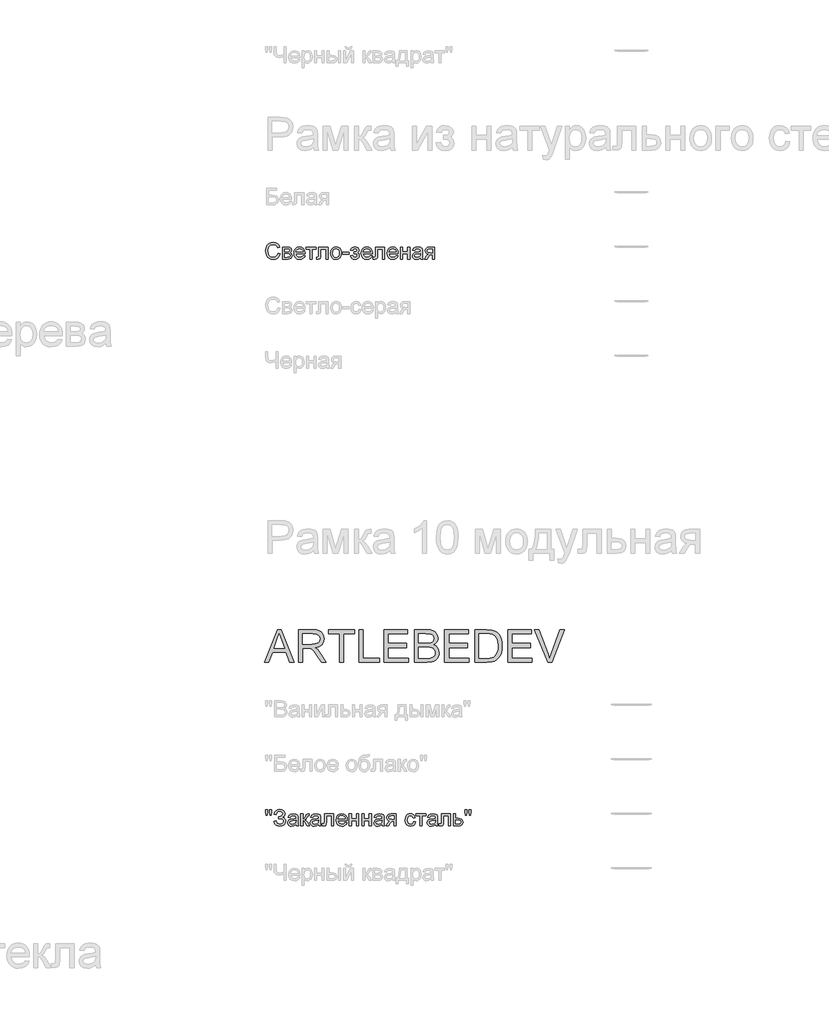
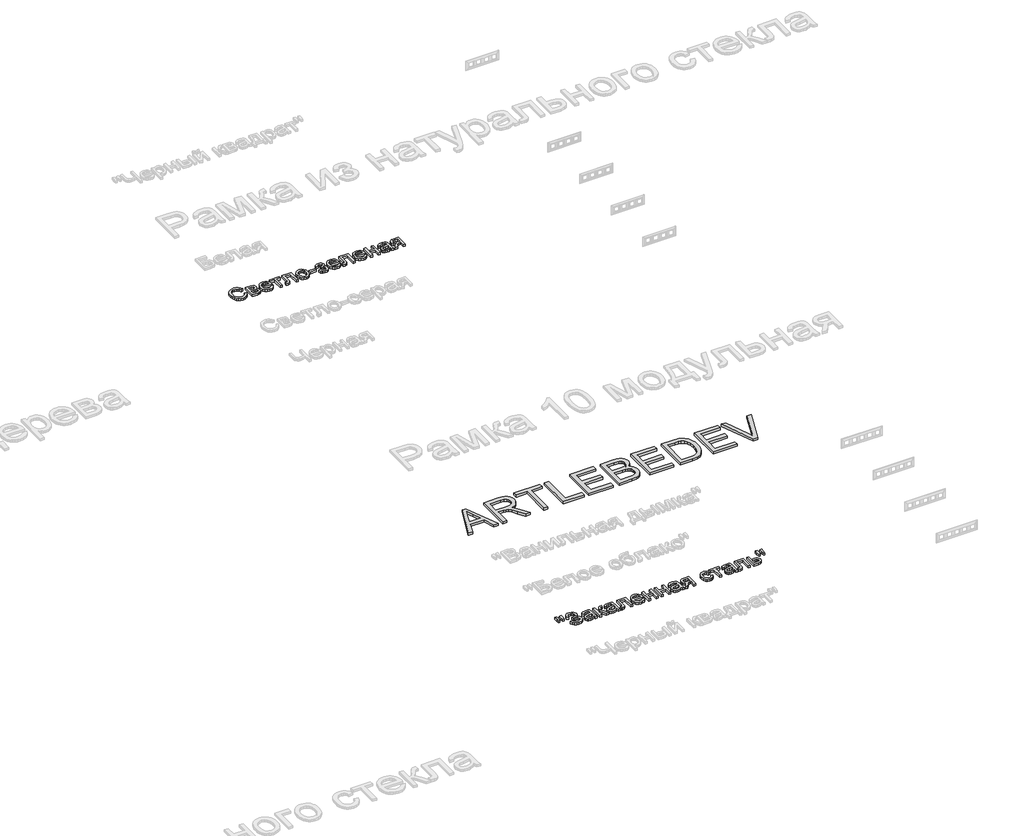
# One storey, part 125 of 168: 3 proxies.
"""IFC4 building model written with IfcOpenShell, lengths in millimetres."""

import ifcopenshell
import ifcopenshell.guid

model = None  # the IFC model being written
_history = None  # IfcOwnerHistory: only IFC2X3 demands one
_inside = {}  # id of a spatial element -> (the spatial element, [elements in it])
_under = {}  # id of a project, library or spatial element -> (it, [spatial elements below it])
_declared = {}  # id of a project -> (the project, [libraries it declares])
_typed = {}  # id of a type object -> (the type object, [elements of that type])
_made_of = {}  # id of a material, layer set ... -> (it, [elements and type objects made of it])


def new_model(schema):
    """Start an empty IFC model of exactly this schema.

    Asked for "IFC4X3", IfcOpenShell would pick the latest addendum, in which some entities
    have other attributes; the version numbers below select the first issue.
    IFC2X3 requires an IfcOwnerHistory on every rooted entity: one is made here for all.
    """
    global model, _history
    if schema == "IFC4X3":
        model = ifcopenshell.file(schema_version=(4, 3, 0, 0))
    else:
        model = ifcopenshell.file(schema=schema)
    _inside.clear()
    _under.clear()
    _declared.clear()
    _typed.clear()
    _made_of.clear()
    _history = None
    if model.schema == "IFC2X3":
        org = make("IfcOrganization", Name="unknown")
        user = make(
            "IfcPersonAndOrganization",
            ThePerson=make("IfcPerson", FamilyName="unknown"),
            TheOrganization=org,
        )
        app = make(
            "IfcApplication",
            ApplicationDeveloper=org,
            Version="unknown",
            ApplicationFullName="unknown",
            ApplicationIdentifier="unknown",
        )
        _history = make(
            "IfcOwnerHistory",
            OwningUser=user,
            OwningApplication=app,
            ChangeAction="ADDED",
            CreationDate=0,
        )
    return model


def make(cls, **values):
    """One entity of the class cls with the attributes given. An attribute that is None is left unset."""
    return model.create_entity(
        cls, **{name: value for name, value in values.items() if value is not None}
    )


def rooted(cls, **values):
    """An entity with a GlobalId (a new one), such as an element, a storey or a relation."""
    return make(cls, GlobalId=ifcopenshell.guid.new(), OwnerHistory=_history, **values)


def si_unit(unit_type, name, prefix=None):
    """IfcSIUnit, for example si_unit("LENGTHUNIT", "METRE", prefix="MILLI")."""
    return make("IfcSIUnit", UnitType=unit_type, Prefix=prefix, Name=name)


def assignment(units):
    """IfcUnitAssignment: the units of a project."""
    return None if units is None else make("IfcUnitAssignment", Units=units)


def point(xyz):
    """IfcCartesianPoint."""
    return None if xyz is None else make("IfcCartesianPoint", Coordinates=xyz)


def direction(xyz):
    """IfcDirection."""
    return None if xyz is None else make("IfcDirection", DirectionRatios=xyz)


def frame(location, z_axis=None, x_axis=None):
    """IfcAxis2Placement3D, a coordinate frame: its origin and axes. An axis left out is left unset."""
    return make(
        "IfcAxis2Placement3D",
        Location=point(location),
        Axis=direction(z_axis),
        RefDirection=direction(x_axis),
    )


def origin():
    """The frame at (0, 0, 0) with its axes left unset."""
    return frame((0.0, 0.0, 0.0))


def origin_with_axes():
    """The frame at (0, 0, 0) with the z axis (0, 0, 1) and the x axis (1, 0, 0) written out."""
    return frame((0.0, 0.0, 0.0), z_axis=(0.0, 0.0, 1.0), x_axis=(1.0, 0.0, 0.0))


def place(relative_to, where):
    """IfcLocalPlacement: puts the frame where relative to a parent placement (None: the world)."""
    return make(
        "IfcLocalPlacement", PlacementRelTo=relative_to, RelativePlacement=where
    )


def context(
    kind, dimensions, precision=None, world=None, true_north=None, identifier=None
):
    """IfcGeometricRepresentationContext, for example the 3D "Model" context."""
    return make(
        "IfcGeometricRepresentationContext",
        ContextIdentifier=identifier,
        ContextType=kind,
        CoordinateSpaceDimension=dimensions,
        Precision=precision,
        WorldCoordinateSystem=world,
        TrueNorth=true_north,
    )


def project(units=None, contexts=None):
    """IfcProject with its units and contexts."""
    return rooted(
        "IfcProject",
        Name="project",
        RepresentationContexts=contexts,
        UnitsInContext=assignment(units),
    )


def spatial(cls, under=None, at=None, **own):
    """A site, building, storey or space (cls), placed at a placement, below another one or the project."""
    s = rooted(cls, ObjectPlacement=at, **own)
    if under is not None:
        _under.setdefault(under.id(), (under, []))[1].append(s)
    return s


def polyline(points):
    """IfcPolyline through the points."""
    return make("IfcPolyline", Points=[point(p) for p in points])


def outline(outer, holes=None, kind="AREA"):
    """IfcArbitraryClosedProfileDef: a profile drawn as a closed curve; with holes, ...WithVoids."""
    if holes is None:
        return make("IfcArbitraryClosedProfileDef", ProfileType=kind, OuterCurve=outer)
    return make(
        "IfcArbitraryProfileDefWithVoids",
        ProfileType=kind,
        OuterCurve=outer,
        InnerCurves=holes,
    )


def extrude(swept, where, along, depth):
    """IfcExtrudedAreaSolid: the profile swept, set in the frame where, extruded along a direction by depth."""
    return make(
        "IfcExtrudedAreaSolid",
        SweptArea=swept,
        Position=where,
        ExtrudedDirection=direction(along),
        Depth=depth,
    )


def shape(context_of_items, identifier, shape_type, items):
    """IfcShapeRepresentation: the items that make up one representation, for example the "Body"."""
    return make(
        "IfcShapeRepresentation",
        ContextOfItems=context_of_items,
        RepresentationIdentifier=identifier,
        RepresentationType=shape_type,
        Items=items,
    )


def made_of(thing, what):
    """Note that an element or type object is made of a material, layer set ...; save() writes the relation."""
    if what is not None:
        _made_of.setdefault(what.id(), (what, []))[1].append(thing)
    return thing


def element(
    cls,
    number,
    at=None,
    inside=None,
    cuts=None,
    type_object=None,
    material=None,
    context=None,
    identifier="Body",
    shape_type=None,
    held_by="IfcProductDefinitionShape",
    body=None,
    shapes=None,
    **own,
):
    """One element of the class cls, such as IfcWall. Its Tag is "e" and its number.

    at: its placement. inside: the storey or other place that contains it. cuts: it is an
    opening in that element (IfcRelVoidsElement). A single representation is given by context,
    identifier, shape_type and body (its items); several are given by shapes. held_by: the class
    of the entity that holds the representations. save() writes the other relations.
    """
    e = rooted(cls, Tag="e%d" % number, ObjectPlacement=at, **own)
    if body is not None:
        shapes = [shape(context, identifier, shape_type, body)]
    if shapes is not None:
        e.Representation = make(held_by, Representations=shapes)
    if inside is not None:
        _inside.setdefault(inside.id(), (inside, []))[1].append(e)
    if cuts is not None:
        rooted(
            "IfcRelVoidsElement", RelatingBuildingElement=cuts, RelatedOpeningElement=e
        )
    if type_object is not None:
        _typed.setdefault(type_object.id(), (type_object, []))[1].append(e)
    return made_of(e, material)


def aggregate(whole, parts):
    """IfcRelAggregates: a whole, such as a stair, and the parts it consists of."""
    return rooted("IfcRelAggregates", RelatingObject=whole, RelatedObjects=parts)


def save(model, path):
    """Write the relations noted so far, then the file.

    IfcRelAggregates (storeys below a building ...), IfcRelContainedInSpatialStructure (elements
    in a storey), IfcRelDefinesByType, IfcRelAssociatesMaterial and IfcRelDeclares: one each for
    every whole, place, type object, material and project.
    """
    for whole, parts in _under.values():
        aggregate(whole, parts)
    for where, things in _inside.values():
        rooted(
            "IfcRelContainedInSpatialStructure",
            RelatedElements=things,
            RelatingStructure=where,
        )
    for kind, things in _typed.values():
        rooted("IfcRelDefinesByType", RelatedObjects=things, RelatingType=kind)
    for what, things in _made_of.values():
        rooted("IfcRelAssociatesMaterial", RelatedObjects=things, RelatingMaterial=what)
    for by, libraries in _declared.values():
        rooted("IfcRelDeclares", RelatingContext=by, RelatedDefinitions=libraries)
    model.write(path)


model = new_model("IFC4")

# Units and contexts
model_context = context("Model", 3, world=origin())
ifc_project = project(units=[si_unit("LENGTHUNIT", "METRE", prefix="MILLI")], contexts=[model_context])

# Site, building, storey
site = spatial("IfcSite", under=ifc_project)
building = spatial("IfcBuilding", under=site)
storey = spatial("IfcBuildingStorey", under=building, Name="Этаж 01", Elevation=0.0)

# Proxies
placement = place(None, origin())
element("IfcBuildingElementProxy", 1, Name="300 мм Arial 2", ObjectType="300 мм Arial 2", at=placement, inside=storey, context=model_context, shape_type="SweptSolid", body=[
    extrude(outline(polyline([(55063.9985593, -13548.4056816), (55184.2959717, -13247.0367511), (55216.3752817, -13247.0367511), (55336.6726941, -13548.4056816), (55296.8678623, -13548.4056816), (55262.3605311, -13454.2278908), (55138.2371459, -13454.2278908), (55103.8033912, -13548.4056816), (55063.9985593, -13548.4056816)]), holes=[polyline([(55152.069509, -13416.5567745), (55248.6017445, -13416.5567745), (55221.4520533, -13342.4653407), (55200.3356267, -13284.7078674), (55181.573645, -13335.9906176), (55152.069509, -13416.5567745)])]), origin_with_axes(), (0.0, 0.0, 1.0), 20.0),
    extrude(outline(polyline([(55376.9189844, -13548.4056816), (55376.9189844, -13247.0367511), (55506.7813287, -13247.0367511), (55541.684133, -13249.0692991), (55567.0771877, -13255.1669432), (55585.6368344, -13266.4241323), (55600.0394145, -13283.9353152), (55609.2824496, -13305.64955), (55612.3634613, -13329.5158944), (55607.2590986, -13359.2039714), (55591.9460106, -13383.8152769), (55580.3462314, -13393.8446598), (55565.9643447, -13401.8598888), (55528.8542484, -13411.847885), (55550.2649805, -13427.9611163), (55580.7991861, -13466.7358786), (55631.0518667, -13548.4056816), (55587.2739093, -13548.4056816), (55548.0576886, -13485.9393188), (55519.7307749, -13444.5893825), (55499.828359, -13425.0548486), (55481.9125058, -13417.8811497), (55460.0603153, -13416.5567745), (55414.5901007, -13416.5567745), (55414.5901007, -13548.4056816), (55376.9189844, -13548.4056816)]), holes=[polyline([(55414.5901007, -13378.8856582), (55498.908654, -13378.8856582), (55523.1244863, -13377.552086), (55541.9140593, -13373.5513693), (55556.059122, -13366.6167937), (55566.3414237, -13356.4816447), (55572.6046147, -13344.2219772), (55574.692345, -13330.913846), (55570.7100224, -13312.5381404), (55558.7630546, -13297.7308901), (55538.2076482, -13287.9636231), (55508.4000095, -13284.7078674), (55414.5901007, -13284.7078674), (55414.5901007, -13378.8856582)])]), origin_with_axes(), (0.0, 0.0, 1.0), 20.0),
    extrude(outline(polyline([(55753.6301475, -13548.4056816), (55753.6301475, -13284.7078674), (55654.7434672, -13284.7078674), (55654.7434672, -13247.0367511), (55890.1879441, -13247.0367511), (55890.1879441, -13284.7078674), (55791.3012638, -13284.7078674), (55791.3012638, -13548.4056816), (55753.6301475, -13548.4056816)])), origin_with_axes(), (0.0, 0.0, 1.0), 20.0),
    extrude(outline(polyline([(55932.5679499, -13548.4056816), (55932.5679499, -13247.0367511), (55970.2390662, -13247.0367511), (55970.2390662, -13510.7345653), (56120.9235315, -13510.7345653), (56120.9235315, -13548.4056816), (55932.5679499, -13548.4056816)])), origin_with_axes(), (0.0, 0.0, 1.0), 20.0),
    extrude(outline(polyline([(56163.3035373, -13548.4056816), (56163.3035373, -13247.0367511), (56379.9124561, -13247.0367511), (56379.9124561, -13284.7078674), (56200.9746536, -13284.7078674), (56200.9746536, -13374.1767687), (56370.494677, -13374.1767687), (56370.494677, -13411.847885), (56200.9746536, -13411.847885), (56200.9746536, -13510.7345653), (56384.6213456, -13510.7345653), (56384.6213456, -13548.4056816), (56163.3035373, -13548.4056816)])), origin_with_axes(), (0.0, 0.0, 1.0), 20.0),
    extrude(outline(polyline([(56441.1280201, -13548.4056816), (56441.1280201, -13247.0367511), (56556.1279318, -13247.0367511), (56587.7565863, -13249.2532401), (56612.4506652, -13255.9027072), (56631.3781939, -13267.1506992), (56645.7071976, -13283.162763), (56654.7295035, -13301.9983212), (56657.7369388, -13321.7167961), (56655.2077501, -13339.8625756), (56647.620184, -13356.9231031), (56634.9190581, -13371.849915), (56617.0491902, -13383.5945477), (56638.3955429, -13394.7413722), (56654.1684835, -13411.7007322), (56663.9081593, -13433.3505876), (56667.1547179, -13458.5688983), (56664.9382289, -13479.5841573), (56658.2887618, -13499.072706), (56648.365145, -13515.6457899), (56636.3262067, -13527.9146544), (56621.5833357, -13536.7990046), (56603.5479209, -13543.2185454), (56555.245015, -13548.4056816), (56441.1280201, -13548.4056816)]), holes=[polyline([(56478.7991364, -13369.4678791), (56547.5930695, -13369.4678791), (56587.7657833, -13366.2305176), (56601.8280726, -13360.6479083), (56611.9356304, -13352.2877899), (56618.0332745, -13341.2789212), (56620.0658225, -13327.7500609), (56618.1712302, -13314.6166736), (56612.4874534, -13303.1755436), (56603.2720094, -13294.2452082), (56590.7824157, -13288.6442048), (56542.3691451, -13284.7078674), (56478.7991364, -13284.7078674), (56478.7991364, -13369.4678791)]), polyline([(56478.7991364, -13510.7345653), (56556.0543554, -13510.7345653), (56584.013387, -13509.2630373), (56607.6681993, -13501.0592688), (56623.3399723, -13484.320638), (56627.9476943, -13472.4932319), (56629.4836016, -13458.9367803), (56627.6809798, -13443.1914309), (56622.2731145, -13429.6533735), (56612.8277443, -13419.0675691), (56598.9126078, -13412.1789788), (56579.2033299, -13408.3989913), (56552.3755354, -13407.1389954), (56478.7991364, -13407.1389954), (56478.7991364, -13510.7345653)])]), origin_with_axes(), (0.0, 0.0, 1.0), 20.0),
    extrude(outline(polyline([(56718.9525028, -13548.4056816), (56718.9525028, -13247.0367511), (56935.5614216, -13247.0367511), (56935.5614216, -13284.7078674), (56756.6236191, -13284.7078674), (56756.6236191, -13374.1767687), (56926.1436425, -13374.1767687), (56926.1436425, -13411.847885), (56756.6236191, -13411.847885), (56756.6236191, -13510.7345653), (56940.2703111, -13510.7345653), (56940.2703111, -13548.4056816), (56718.9525028, -13548.4056816)])), origin_with_axes(), (0.0, 0.0, 1.0), 20.0),
    extrude(outline(polyline([(56996.7769856, -13548.4056816), (56996.7769856, -13247.0367511), (57100.7404374, -13247.0367511), (57154.5247851, -13251.3777587), (57178.5474794, -13259.7470741), (57198.8177773, -13272.9356436), (57219.6582924, -13295.8914801), (57234.5023309, -13324.4391229), (57243.386681, -13358.0267491), (57246.3481311, -13396.1025356), (57244.3431742, -13428.44856), (57238.3283036, -13456.9134294), (57229.1680419, -13481.1476558), (57217.7269119, -13500.8017514), (57204.5567365, -13516.3171745), (57190.2093386, -13528.1353836), (57173.7374223, -13536.9001722), (57154.1936913, -13543.2553336), (57105.7436325, -13548.4056816), (56996.7769856, -13548.4056816)]), holes=[polyline([(57034.4481019, -13510.7345653), (57101.1083194, -13510.7345653), (57128.6810749, -13509.3734019), (57149.5951664, -13505.2899117), (57165.377304, -13498.7232181), (57177.554198, -13489.9124443), (57190.6416, -13473.6060749), (57200.4732463, -13452.4988454), (57206.6260727, -13426.4987854), (57208.6770148, -13395.5139244), (57204.657904, -13354.4582937), (57192.6005716, -13324.1448173), (57174.785886, -13303.3226964), (57153.4947155, -13290.7411321), (57131.826466, -13286.2161836), (57100.0782498, -13284.7078674), (57034.4481019, -13284.7078674), (57034.4481019, -13510.7345653)])]), origin_with_axes(), (0.0, 0.0, 1.0), 20.0),
    extrude(outline(polyline([(57298.145916, -13548.4056816), (57298.145916, -13247.0367511), (57514.7548348, -13247.0367511), (57514.7548348, -13284.7078674), (57335.8170323, -13284.7078674), (57335.8170323, -13374.1767687), (57505.3370557, -13374.1767687), (57505.3370557, -13411.847885), (57335.8170323, -13411.847885), (57335.8170323, -13510.7345653), (57519.4637243, -13510.7345653), (57519.4637243, -13548.4056816), (57298.145916, -13548.4056816)])), origin_with_axes(), (0.0, 0.0, 1.0), 20.0),
    extrude(outline(polyline([(57664.9978416, -13548.4056816), (57545.0683112, -13247.0367511), (57585.3881779, -13247.0367511), (57665.6600292, -13464.1607047), (57681.9204134, -13513.08901), (57697.9600684, -13464.1607047), (57778.4526489, -13247.0367511), (57818.7725156, -13247.0367511), (57703.9197567, -13548.4056816), (57664.9978416, -13548.4056816)])), origin_with_axes(), (0.0, 0.0, 1.0), 20.0),
])
element("IfcBuildingElementProxy", 2, Name="150", ObjectType="150", at=placement, inside=storey, context=model_context, shape_type="SweptSolid", body=[
    extrude(outline(polyline([(55188.5634029, -9794.8420631), (55207.398961, -9799.6981054), (55198.7077489, -9821.6468649), (55185.0685239, -9837.6819214), (55167.1526708, -9847.4905751), (55145.631574, -9850.7601263), (55123.7839821, -9848.2861199), (55106.4337475, -9840.8641007), (55093.1348133, -9828.751586), (55083.4411228, -9812.2060932), (55077.5228212, -9792.7543327), (55075.550054, -9771.9230148), (55077.7803386, -9749.9512626), (55084.4711923, -9730.9777487), (55095.2731274, -9715.6048798), (55109.8366559, -9704.4350628), (55127.1087156, -9697.6338444), (55146.0362442, -9695.3667716), (55166.6882197, -9698.3006305), (55183.7625428, -9707.1022072), (55196.7257847, -9721.2288758), (55205.0445163, -9740.1380104), (55186.2089581, -9744.6261707), (55179.6790527, -9730.8903767), (55170.7579143, -9721.4679991), (55159.3351784, -9716.0187471), (55145.3004803, -9714.2023297), (55129.1228695, -9716.2164837), (55115.8331324, -9722.2589454), (55105.7485672, -9731.6951186), (55099.1864722, -9743.8904067), (55094.3856121, -9771.8862266), (55095.8065563, -9789.2870449), (55100.0693889, -9804.3334185), (55107.3350583, -9816.4505318), (55117.7645129, -9825.063569), (55130.2679022, -9830.2093184), (55143.7553759, -9831.9245682), (55159.4777326, -9829.5885175), (55172.5789302, -9822.5803655), (55182.4703573, -9810.9736886), (55188.5634029, -9794.8420631)])), origin_with_axes(), (0.0, 0.0, 1.0), 20.0),
    extrude(outline(polyline([(55230.9434087, -9737.7467774), (55272.4404978, -9737.7467774), (55295.1939992, -9740.2667691), (55307.9962926, -9749.5006072), (55313.3489756, -9765.5954445), (55310.1116141, -9778.6736494), (55300.3627412, -9787.999458), (55313.0178819, -9798.2081833), (55318.0578652, -9815.9584896), (55314.8664889, -9830.3150845), (55307.2789227, -9840.4226423), (55295.2675756, -9846.4099217), (55278.8048563, -9848.4056816), (55230.9434087, -9848.4056816), (55230.9434087, -9737.7467774)]), holes=[polyline([(55249.7789669, -9780.1267833), (55268.3937958, -9780.1267833), (55283.7528691, -9779.1702901), (55291.2208736, -9775.3443173), (55294.5134175, -9768.4281358), (55293.0694807, -9762.8087383), (55288.7376702, -9759.1942977), (55268.982407, -9756.5823356), (55249.7789669, -9756.5823356), (55249.7789669, -9780.1267833)]), polyline([(55249.7789669, -9829.5701234), (55272.8819562, -9829.5701234), (55293.3729833, -9826.167215), (55297.6128233, -9821.5273033), (55299.222307, -9814.4133852), (55296.0033396, -9805.345094), (55287.6156301, -9800.0659874), (55271.0425462, -9798.9623414), (55249.7789669, -9798.9623414), (55249.7789669, -9829.5701234)])]), origin_with_axes(), (0.0, 0.0, 1.0), 20.0),
    extrude(outline(polyline([(55419.0782611, -9815.4434548), (55437.5459372, -9817.7978996), (55430.8918716, -9831.713036), (55420.2738775, -9842.1148995), (55405.9310783, -9848.5988196), (55388.1025971, -9850.7601263), (55366.0020862, -9847.0307226), (55348.996741, -9835.8425114), (55338.1534192, -9817.9220597), (55334.5389786, -9793.9959345), (55338.1902074, -9769.2650674), (55349.1438938, -9750.7698), (55365.9193128, -9739.2366995), (55387.0357393, -9735.3923327), (55407.4945767, -9739.2275025), (55423.8423329, -9750.7330118), (55434.5614945, -9769.191491), (55438.1345484, -9793.8855699), (55438.0241838, -9798.9623414), (55353.3745367, -9798.9623414), (55356.6348909, -9813.0614189), (55364.2086615, -9823.4264941), (55375.1393553, -9829.8000497), (55388.4704791, -9831.9245682), (55406.9381552, -9827.9882308), (55419.0782611, -9815.4434548)]), holes=[polyline([(55353.3745367, -9780.1267833), (55419.2989903, -9780.1267833), (55416.7514074, -9770.1755753), (55411.7574094, -9763.0570587), (55400.7761318, -9756.4351828), (55386.9621629, -9754.2278908), (55374.2656355, -9755.9891259), (55363.7672031, -9761.272831), (55356.469344, -9769.5087892), (55353.3745367, -9780.1267833)])]), origin_with_axes(), (0.0, 0.0, 1.0), 20.0),
    extrude(outline(polyline([(55447.5523275, -9737.7467774), (55537.0212287, -9737.7467774), (55537.0212287, -9756.5823356), (55501.7045572, -9756.5823356), (55501.7045572, -9848.4056816), (55482.868999, -9848.4056816), (55482.868999, -9756.5823356), (55447.5523275, -9756.5823356), (55447.5523275, -9737.7467774)])), origin_with_axes(), (0.0, 0.0, 1.0), 20.0),
    extrude(outline(polyline([(55562.9201212, -9737.7467774), (55647.6801329, -9737.7467774), (55647.6801329, -9848.295317), (55628.8445747, -9848.295317), (55628.8445747, -9756.5823356), (55581.7556793, -9756.5823356), (55581.7556793, -9809.3734019), (55580.4864864, -9833.72719), (55573.5151226, -9844.0094917), (55557.0340093, -9848.4056816), (55541.7301183, -9847.4491884), (55541.7301183, -9829.5701234), (55550.1546159, -9829.5701234), (55558.6710841, -9828.4112951), (55562.0739926, -9824.7324752), (55562.9201212, -9808.3065441), (55562.9201212, -9737.7467774)])), origin_with_axes(), (0.0, 0.0, 1.0), 20.0),
    extrude(outline(polyline([(55671.2245806, -9793.0762295), (55675.2988737, -9766.3955878), (55687.5217529, -9747.6428031), (55702.6233088, -9738.4549503), (55720.7047089, -9735.3923327), (55740.4921617, -9739.1217364), (55756.2972919, -9750.3099476), (55766.6577686, -9768.0740494), (55770.1112609, -9791.5311251), (55768.5845506, -9810.5598213), (55764.0044197, -9825.0451749), (55756.5042256, -9835.8930952), (55746.2173253, -9844.0094917), (55733.9990445, -9849.0724677), (55720.7047089, -9850.7601263), (55700.6781328, -9847.0445182), (55684.8913967, -9835.8976937), (55674.6412846, -9817.7611114), (55671.2245806, -9793.0762295)]), holes=[polyline([(55690.0601387, -9793.0394413), (55692.2398395, -9810.0861732), (55698.778942, -9822.2308776), (55708.6197854, -9829.5011455), (55720.7047089, -9831.9245682), (55732.7344502, -9829.48735), (55742.5568994, -9822.1756953), (55749.0960019, -9809.8700426), (55751.2757027, -9792.4508301), (55749.0822063, -9775.9007388), (55742.5017171, -9763.9215814), (55732.6654723, -9756.6513134), (55720.7047089, -9754.2278908), (55708.6197854, -9756.6421164), (55698.778942, -9763.8847932), (55692.2398395, -9776.0019064), (55690.0601387, -9793.0394413)])]), origin_with_axes(), (0.0, 0.0, 1.0), 20.0),
    extrude(outline(polyline([(55781.8834847, -9803.671231), (55781.8834847, -9784.8356728), (55840.7446039, -9784.8356728), (55840.7446039, -9803.671231), (55781.8834847, -9803.671231)])), origin_with_axes(), (0.0, 0.0, 1.0), 20.0),
    extrude(outline(polyline([(55887.8334993, -9798.9623414), (55887.8334993, -9780.1267833), (55902.6959319, -9779.3910193), (55910.2007246, -9775.473076), (55913.7323918, -9767.2877016), (55909.0051081, -9757.7779521), (55896.80982, -9754.2278908), (55884.2098617, -9757.759558), (55876.0612755, -9768.3545594), (55854.8712725, -9766.0001146), (55860.49067, -9752.60921), (55869.0347294, -9743.0442782), (55880.5034506, -9737.305319), (55894.8968336, -9735.3923327), (55910.642183, -9737.7237848), (55922.5615597, -9744.7181412), (55930.0663524, -9754.9498592), (55932.5679499, -9766.993396), (55929.0086916, -9778.6920435), (55918.3309167, -9787.7419406), (55930.7837223, -9799.4773762), (55934.9223947, -9816.3631598), (55932.296637, -9830.2277125), (55924.4193637, -9841.2135886), (55911.8240039, -9848.3734919), (55895.0439864, -9850.7601263), (55878.6318509, -9848.5528344), (55866.0732793, -9841.9309585), (55857.3682716, -9830.8944986), (55852.5168278, -9815.4434548), (55873.7068307, -9813.08901), (55882.2049048, -9826.9949494), (55896.8466082, -9831.9245682), (55910.6053948, -9827.1972845), (55916.0868365, -9815.112361), (55912.6839281, -9805.2163353), (55905.4366528, -9799.9188346), (55891.5123193, -9798.8519768), (55887.8334993, -9798.9623414)])), origin_with_axes(), (0.0, 0.0, 1.0), 20.0),
    extrude(outline(polyline([(56035.9427906, -9815.4434548), (56054.4104667, -9817.7978996), (56047.7564011, -9831.713036), (56037.1384071, -9842.1148995), (56022.7956078, -9848.5988196), (56004.9671266, -9850.7601263), (55982.8666157, -9847.0307226), (55965.8612705, -9835.8425114), (55955.0179487, -9817.9220597), (55951.4035081, -9793.9959345), (55955.0547369, -9769.2650674), (55966.0084233, -9750.7698), (55982.7838423, -9739.2366995), (56003.9002688, -9735.3923327), (56024.3591063, -9739.2275025), (56040.7068624, -9750.7330118), (56051.426024, -9769.191491), (56054.9990779, -9793.8855699), (56054.8887133, -9798.9623414), (55970.2390662, -9798.9623414), (55973.4994204, -9813.0614189), (55981.073191, -9823.4264941), (55992.0038848, -9829.8000497), (56005.3350086, -9831.9245682), (56023.8026847, -9827.9882308), (56035.9427906, -9815.4434548)]), holes=[polyline([(55970.2390662, -9780.1267833), (56036.1635198, -9780.1267833), (56033.615937, -9770.1755753), (56028.6219389, -9763.0570587), (56017.6406613, -9756.4351828), (56003.8266924, -9754.2278908), (55991.130165, -9755.9891259), (55980.6317326, -9761.272831), (55973.3338735, -9769.5087892), (55970.2390662, -9780.1267833)])]), origin_with_axes(), (0.0, 0.0, 1.0), 20.0),
    extrude(outline(polyline([(56083.2524152, -9737.7467774), (56168.0124268, -9737.7467774), (56168.0124268, -9848.295317), (56149.1768687, -9848.295317), (56149.1768687, -9756.5823356), (56102.0879733, -9756.5823356), (56102.0879733, -9809.3734019), (56100.8187804, -9833.72719), (56093.8474166, -9844.0094917), (56077.3663032, -9848.4056816), (56062.0624122, -9847.4491884), (56062.0624122, -9829.5701234), (56070.4869099, -9829.5701234), (56079.0033781, -9828.4112951), (56082.4062866, -9824.7324752), (56083.2524152, -9808.3065441), (56083.2524152, -9737.7467774)])), origin_with_axes(), (0.0, 0.0, 1.0), 20.0),
    extrude(outline(polyline([(56273.7417123, -9815.4434548), (56292.2093884, -9817.7978996), (56285.5553228, -9831.713036), (56274.9373287, -9842.1148995), (56260.5945295, -9848.5988196), (56242.7660483, -9850.7601263), (56220.6655374, -9847.0307226), (56203.6601922, -9835.8425114), (56192.8168704, -9817.9220597), (56189.2024298, -9793.9959345), (56192.8536586, -9769.2650674), (56203.807345, -9750.7698), (56220.582764, -9739.2366995), (56241.6991905, -9735.3923327), (56262.1580279, -9739.2275025), (56278.5057841, -9750.7330118), (56289.2249457, -9769.191491), (56292.7979996, -9793.8855699), (56292.687635, -9798.9623414), (56208.0379879, -9798.9623414), (56211.2983421, -9813.0614189), (56218.8721127, -9823.4264941), (56229.8028065, -9829.8000497), (56243.1339303, -9831.9245682), (56261.6016064, -9827.9882308), (56273.7417123, -9815.4434548)]), holes=[polyline([(56208.0379879, -9780.1267833), (56273.9624415, -9780.1267833), (56271.4148586, -9770.1755753), (56266.4208606, -9763.0570587), (56255.439583, -9756.4351828), (56241.6256141, -9754.2278908), (56228.9290867, -9755.9891259), (56218.4306543, -9761.272831), (56211.1327952, -9769.5087892), (56208.0379879, -9780.1267833)])]), origin_with_axes(), (0.0, 0.0, 1.0), 20.0),
    extrude(outline(polyline([(56311.6335578, -9737.7467774), (56330.4691159, -9737.7467774), (56330.4691159, -9780.1267833), (56379.9124561, -9780.1267833), (56379.9124561, -9737.7467774), (56398.7480142, -9737.7467774), (56398.7480142, -9848.4056816), (56379.9124561, -9848.4056816), (56379.9124561, -9798.9623414), (56330.4691159, -9798.9623414), (56330.4691159, -9848.4056816), (56311.6335578, -9848.4056816), (56311.6335578, -9737.7467774)])), origin_with_axes(), (0.0, 0.0, 1.0), 20.0),
    extrude(outline(polyline([(56497.6346945, -9834.279013), (56479.3693535, -9847.0445182), (56459.191026, -9850.7601263), (56443.4502752, -9848.5252432), (56431.8389997, -9841.8205939), (56424.6790964, -9831.6394596), (56422.2924619, -9818.975122), (56425.8977055, -9804.0759012), (56435.3706668, -9793.2601705), (56448.5592364, -9787.079753), (56464.8564088, -9784.2470616), (56497.5243299, -9777.7723385), (56497.6346945, -9773.5784838), (56496.3379105, -9765.1723802), (56492.4475584, -9759.6725443), (56483.7471492, -9755.5890542), (56471.6254375, -9754.2278908), (56452.5691501, -9757.8515285), (56443.4824648, -9770.7090042), (56424.6469067, -9768.3545594), (56432.7954929, -9749.9604597), (56449.2030299, -9739.1815172), (56474.0534586, -9735.3923327), (56496.8805364, -9738.7400588), (56509.7748004, -9747.1461624), (56515.5505477, -9759.9300617), (56516.4702527, -9776.4111751), (56516.4702527, -9799.8452582), (56517.4267459, -9832.5683617), (56521.1791422, -9848.4056816), (56502.3435841, -9848.4056816), (56497.6346945, -9834.279013)]), holes=[polyline([(56497.6346945, -9796.6078966), (56467.2476417, -9802.383644), (56451.0424398, -9805.4370645), (56443.703194, -9810.4034715), (56441.1280201, -9817.6507468), (56446.7382205, -9827.841078), (56463.2009398, -9831.9245682), (56482.2572271, -9827.4180137), (56494.5444858, -9816.5103126), (56497.5243299, -9801.9421856), (56497.6346945, -9796.6078966)])]), origin_with_axes(), (0.0, 0.0, 1.0), 20.0),
    extrude(outline(polyline([(56627.1291568, -9737.7467774), (56627.1291568, -9848.4056816), (56608.2935987, -9848.4056816), (56608.2935987, -9806.0256757), (56598.029691, -9806.0256757), (56584.0501752, -9808.4169087), (56570.916788, -9824.4933519), (56555.9072026, -9848.4056816), (56534.1285884, -9848.4056816), (56553.037723, -9818.1657816), (56561.3886443, -9807.3132627), (56569.077378, -9802.4940086), (56556.2015082, -9798.5484742), (56547.1516111, -9791.0528785), (56541.798928, -9781.0832765), (56540.0147004, -9769.7157228), (56542.4519186, -9756.8214589), (56549.7635732, -9746.6127335), (56561.6921469, -9739.9632664), (56577.9801223, -9737.7467774), (56627.1291568, -9737.7467774)]), holes=[polyline([(56608.2935987, -9756.5823356), (56583.461564, -9756.5823356), (56570.6362779, -9757.672186), (56563.356813, -9760.9417372), (56558.8502585, -9771.1504626), (56560.510326, -9778.32876), (56565.4905285, -9783.3089625), (56589.0165821, -9787.1901176), (56608.2935987, -9787.1901176), (56608.2935987, -9756.5823356)])]), origin_with_axes(), (0.0, 0.0, 1.0), 20.0),
])
element("IfcBuildingElementProxy", 3, Name="150", ObjectType="150", at=placement, inside=storey, context=model_context, shape_type="SweptSolid", body=[
    extrude(outline(polyline([(55080.1485789, -14951.873446), (55075.550054, -14922.7739802), (55075.550054, -14897.7212163), (55094.3856121, -14897.7212163), (55094.3856121, -14922.7739802), (55090.2653338, -14951.873446), (55080.1485789, -14951.873446)])), origin_with_axes(), (0.0, 0.0, 1.0), 20.0),
    extrude(outline(polyline([(55117.7093306, -14951.873446), (55113.2211703, -14922.7739802), (55113.2211703, -14897.7212163), (55132.0567284, -14897.7212163), (55132.0567284, -14922.7739802), (55127.6421445, -14951.873446), (55117.7093306, -14951.873446)])), origin_with_axes(), (0.0, 0.0, 1.0), 20.0),
    extrude(outline(polyline([(55150.8922866, -15006.0256757), (55169.7278447, -15001.3167862), (55181.2977335, -15021.7158428), (55192.2284273, -15029.3723868), (55206.2217387, -15031.9245682), (55220.398991, -15030.0069833), (55231.2193202, -15024.2542286), (55238.0757209, -15015.7883442), (55240.3611878, -15005.7313701), (55237.8641888, -14995.1961495), (55230.3731916, -14987.0613589), (55218.5779752, -14981.8604272), (55203.1683181, -14980.1267833), (55193.2722924, -14980.1267833), (55193.2722924, -14961.2912251), (55214.591054, -14959.7645148), (55227.6324708, -14951.9654165), (55233.2978535, -14937.7099892), (55231.4124583, -14928.8394346), (55225.7562726, -14921.2104817), (55216.8811195, -14915.9543677), (55205.3388219, -14914.2023297), (55186.1169876, -14919.591801), (55175.117316, -14933.8840165), (55172.0822895, -14947.1645565), (55153.2467313, -14942.455667), (55159.0983543, -14921.8542752), (55169.7002536, -14907.1389954), (55185.0524291, -14898.3098275), (55205.1548809, -14895.3667716), (55224.5468605, -14898.4247907), (55239.4598769, -14907.5988479), (55248.965028, -14920.8655924), (55252.1334117, -14936.201673), (55247.2037929, -14954.8440931), (55232.4149367, -14968.7592296), (55242.8903765, -14973.5830823), (55251.5080123, -14981.7270699), (55257.2745625, -14992.4922168), (55259.196746, -15005.1795471), (55255.508729, -15023.0172254), (55244.444678, -15037.6819214), (55227.2921799, -15047.4905751), (55205.3388219, -15050.7601263), (55186.2365493, -15047.9642232), (55170.7947025, -15039.5765137), (55159.0132816, -15025.5969979), (55150.8922866, -15006.0256757)])), origin_with_axes(), (0.0, 0.0, 1.0), 20.0),
    extrude(outline(polyline([(55353.3745367, -15034.279013), (55335.1091957, -15047.0445182), (55314.9308682, -15050.7601263), (55299.1901174, -15048.5252432), (55287.5788419, -15041.8205939), (55280.4189386, -15031.6394596), (55278.0323041, -15018.975122), (55281.6375477, -15004.0759012), (55291.110509, -14993.2601705), (55304.2990786, -14987.079753), (55320.596251, -14984.2470616), (55353.2641721, -14977.7723385), (55353.3745367, -14973.5784838), (55352.0777527, -14965.1723802), (55348.1874006, -14959.6725443), (55339.4869914, -14955.5890542), (55327.3652797, -14954.2278908), (55308.3089923, -14957.8515285), (55299.222307, -14970.7090042), (55280.3867489, -14968.3545594), (55288.5353351, -14949.9604597), (55304.9428721, -14939.1815172), (55329.7933008, -14935.3923327), (55352.6203786, -14938.7400588), (55365.5146426, -14947.1461624), (55371.2903899, -14959.9300617), (55372.2100949, -14976.4111751), (55372.2100949, -14999.8452582), (55373.1665881, -15032.5683617), (55376.9189844, -15048.4056816), (55358.0834263, -15048.4056816), (55353.3745367, -15034.279013)]), holes=[polyline([(55353.3745367, -14996.6078966), (55322.9874839, -15002.383644), (55306.782282, -15005.4370645), (55299.4430362, -15010.4034715), (55296.8678623, -15017.6507468), (55302.4780627, -15027.841078), (55318.940782, -15031.9245682), (55337.9970693, -15027.4180137), (55350.284328, -15016.5103126), (55353.2641721, -15001.9421856), (55353.3745367, -14996.6078966)])]), origin_with_axes(), (0.0, 0.0, 1.0), 20.0),
    extrude(outline(polyline([(55398.1089873, -14937.7467774), (55416.9445455, -14937.7467774), (55416.9445455, -14984.8356728), (55429.5628979, -14981.4511584), (55439.900382, -14961.7326835), (55448.4904266, -14944.7181412), (55456.0687957, -14939.1815172), (55469.8459764, -14937.7467774), (55473.4512199, -14937.7467774), (55473.4512199, -14956.6927002), (55468.3744484, -14956.5823356), (55459.1773985, -14958.5688983), (55452.7026754, -14970.9665216), (55445.1059122, -14984.3758203), (55434.4557285, -14990.9425139), (55446.3383169, -14998.2725627), (55458.0001762, -15013.7144094), (55478.1601095, -15048.4056816), (55456.7493774, -15048.4056816), (55436.9941142, -15014.4501734), (55427.0613004, -15000.0843815), (55416.9445455, -14996.6078966), (55416.9445455, -15048.4056816), (55398.1089873, -15048.4056816), (55398.1089873, -14937.7467774)])), origin_with_axes(), (0.0, 0.0, 1.0), 20.0),
    extrude(outline(polyline([(55560.5656764, -15034.279013), (55542.3003353, -15047.0445182), (55522.1220079, -15050.7601263), (55506.381257, -15048.5252432), (55494.7699816, -15041.8205939), (55487.6100782, -15031.6394596), (55485.2234438, -15018.975122), (55488.8286873, -15004.0759012), (55498.3016487, -14993.2601705), (55511.4902183, -14987.079753), (55527.7873906, -14984.2470616), (55560.4553118, -14977.7723385), (55560.5656764, -14973.5784838), (55559.2688924, -14965.1723802), (55555.3785403, -14959.6725443), (55546.6781311, -14955.5890542), (55534.5564193, -14954.2278908), (55515.500132, -14957.8515285), (55506.4134467, -14970.7090042), (55487.5778886, -14968.3545594), (55495.7264748, -14949.9604597), (55512.1340117, -14939.1815172), (55536.9844405, -14935.3923327), (55559.8115183, -14938.7400588), (55572.7057822, -14947.1461624), (55578.4815296, -14959.9300617), (55579.4012346, -14976.4111751), (55579.4012346, -14999.8452582), (55580.3577277, -15032.5683617), (55584.1101241, -15048.4056816), (55565.2745659, -15048.4056816), (55560.5656764, -15034.279013)]), holes=[polyline([(55560.5656764, -14996.6078966), (55530.1786236, -15002.383644), (55513.9734217, -15005.4370645), (55506.6341759, -15010.4034715), (55504.0590019, -15017.6507468), (55509.6692024, -15027.841078), (55526.1319217, -15031.9245682), (55545.188209, -15027.4180137), (55557.4754676, -15016.5103126), (55560.4553118, -15001.9421856), (55560.5656764, -14996.6078966)])]), origin_with_axes(), (0.0, 0.0, 1.0), 20.0),
    extrude(outline(polyline([(55614.7179061, -14937.7467774), (55699.4779178, -14937.7467774), (55699.4779178, -15048.295317), (55680.6423596, -15048.295317), (55680.6423596, -14956.5823356), (55633.5534643, -14956.5823356), (55633.5534643, -15009.3734019), (55632.2842714, -15033.72719), (55625.3129076, -15044.0094917), (55608.8317942, -15048.4056816), (55593.5279032, -15047.4491884), (55593.5279032, -15029.5701234), (55601.9524009, -15029.5701234), (55610.4688691, -15028.4112951), (55613.8717775, -15024.7324752), (55614.7179061, -15008.3065441), (55614.7179061, -14937.7467774)])), origin_with_axes(), (0.0, 0.0, 1.0), 20.0),
    extrude(outline(polyline([(55805.2072032, -15015.4434548), (55823.6748794, -15017.7978996), (55817.0208138, -15031.713036), (55806.4028197, -15042.1148995), (55792.0600204, -15048.5988196), (55774.2315392, -15050.7601263), (55752.1310283, -15047.0307226), (55735.1256831, -15035.8425114), (55724.2823613, -15017.9220597), (55720.6679207, -14993.9959345), (55724.3191495, -14969.2650674), (55735.2728359, -14950.7698), (55752.0482549, -14939.2366995), (55773.1646814, -14935.3923327), (55793.6235189, -14939.2275025), (55809.971275, -14950.7330118), (55820.6904367, -14969.191491), (55824.2634906, -14993.8855699), (55824.153126, -14998.9623414), (55739.5034789, -14998.9623414), (55742.763833, -15013.0614189), (55750.3376036, -15023.4264941), (55761.2682974, -15029.8000497), (55774.5994212, -15031.9245682), (55793.0670974, -15027.9882308), (55805.2072032, -15015.4434548)]), holes=[polyline([(55739.5034789, -14980.1267833), (55805.4279324, -14980.1267833), (55802.8803496, -14970.1755753), (55797.8863515, -14963.0570587), (55786.9050739, -14956.4351828), (55773.091105, -14954.2278908), (55760.3945777, -14955.9891259), (55749.8961452, -14961.272831), (55742.5982861, -14969.5087892), (55739.5034789, -14980.1267833)])]), origin_with_axes(), (0.0, 0.0, 1.0), 20.0),
    extrude(outline(polyline([(55843.0990487, -14937.7467774), (55861.9346069, -14937.7467774), (55861.9346069, -14980.1267833), (55911.377947, -14980.1267833), (55911.377947, -14937.7467774), (55930.2135052, -14937.7467774), (55930.2135052, -15048.4056816), (55911.377947, -15048.4056816), (55911.377947, -14998.9623414), (55861.9346069, -14998.9623414), (55861.9346069, -15048.4056816), (55843.0990487, -15048.4056816), (55843.0990487, -14937.7467774)])), origin_with_axes(), (0.0, 0.0, 1.0), 20.0),
    extrude(outline(polyline([(55958.4668424, -14937.7467774), (55977.3024005, -14937.7467774), (55977.3024005, -14980.1267833), (56026.7457407, -14980.1267833), (56026.7457407, -14937.7467774), (56045.5812988, -14937.7467774), (56045.5812988, -15048.4056816), (56026.7457407, -15048.4056816), (56026.7457407, -14998.9623414), (55977.3024005, -14998.9623414), (55977.3024005, -15048.4056816), (55958.4668424, -15048.4056816), (55958.4668424, -14937.7467774)])), origin_with_axes(), (0.0, 0.0, 1.0), 20.0),
    extrude(outline(polyline([(56144.4679792, -15034.279013), (56126.2026381, -15047.0445182), (56106.0243107, -15050.7601263), (56090.2835598, -15048.5252432), (56078.6722843, -15041.8205939), (56071.512381, -15031.6394596), (56069.1257465, -15018.975122), (56072.7309901, -15004.0759012), (56082.2039515, -14993.2601705), (56095.392521, -14987.079753), (56111.6896934, -14984.2470616), (56144.3576146, -14977.7723385), (56144.4679792, -14973.5784838), (56143.1711951, -14965.1723802), (56139.280843, -14959.6725443), (56130.5804338, -14955.5890542), (56118.4587221, -14954.2278908), (56099.4024347, -14957.8515285), (56090.3157495, -14970.7090042), (56071.4801913, -14968.3545594), (56079.6287775, -14949.9604597), (56096.0363145, -14939.1815172), (56120.8867433, -14935.3923327), (56143.7138211, -14938.7400588), (56156.608085, -14947.1461624), (56162.3838323, -14959.9300617), (56163.3035373, -14976.4111751), (56163.3035373, -14999.8452582), (56164.2600305, -15032.5683617), (56168.0124268, -15048.4056816), (56149.1768687, -15048.4056816), (56144.4679792, -15034.279013)]), holes=[polyline([(56144.4679792, -14996.6078966), (56114.0809264, -15002.383644), (56097.8757245, -15005.4370645), (56090.5364787, -15010.4034715), (56087.9613047, -15017.6507468), (56093.5715051, -15027.841078), (56110.0342244, -15031.9245682), (56129.0905118, -15027.4180137), (56141.3777704, -15016.5103126), (56144.3576146, -15001.9421856), (56144.4679792, -14996.6078966)])]), origin_with_axes(), (0.0, 0.0, 1.0), 20.0),
    extrude(outline(polyline([(56273.9624415, -14937.7467774), (56273.9624415, -15048.4056816), (56255.1268833, -15048.4056816), (56255.1268833, -15006.0256757), (56244.8629756, -15006.0256757), (56230.8834598, -15008.4169087), (56217.7500726, -15024.4933519), (56202.7404872, -15048.4056816), (56180.9618731, -15048.4056816), (56199.8710076, -15018.1657816), (56208.2219289, -15007.3132627), (56215.9106626, -15002.4940086), (56203.0347928, -14998.5484742), (56193.9848957, -14991.0528785), (56188.6322127, -14981.0832765), (56186.847985, -14969.7157228), (56189.2852032, -14956.8214589), (56196.5968579, -14946.6127335), (56208.5254316, -14939.9632664), (56224.8134069, -14937.7467774), (56273.9624415, -14937.7467774)]), holes=[polyline([(56255.1268833, -14956.5823356), (56230.2948486, -14956.5823356), (56217.4695626, -14957.672186), (56210.1900976, -14960.9417372), (56205.6835431, -14971.1504626), (56207.3436107, -14978.32876), (56212.3238132, -14983.3089625), (56235.8498668, -14987.1901176), (56255.1268833, -14987.1901176), (56255.1268833, -14956.5823356)])]), origin_with_axes(), (0.0, 0.0, 1.0), 20.0),
    extrude(outline(polyline([(56431.710241, -15008.3801205), (56450.5457991, -15010.7345653), (56445.2942837, -15027.4869916), (56435.4258491, -15040.1467308), (56421.8693976, -15048.1067774), (56405.5538311, -15050.7601263), (56385.518058, -15047.0583138), (56369.8508835, -15035.952876), (56359.7387272, -15017.9312568), (56356.3680084, -14993.4808997), (56357.8073467, -14976.7192763), (56362.1253616, -14962.192536), (56369.391031, -14950.4616989), (56379.6733328, -14942.087785), (56391.974387, -14937.0661957), (56405.2963137, -14935.3923327), (56421.2118085, -14937.6915951), (56433.9359271, -14944.5893825), (56443.0639991, -14955.7178129), (56448.1913544, -14970.7090042), (56429.3557962, -14973.063449), (56420.6185988, -14958.9551744), (56405.4434665, -14954.2278908), (56393.271171, -14956.5547444), (56383.6096701, -14963.5353053), (56377.3050924, -14975.5466524), (56375.2035665, -14992.9658649), (56377.2591072, -15010.6196021), (56383.4257291, -15022.672336), (56392.9124861, -15029.6115101), (56404.9284317, -15031.9245682), (56414.6819031, -15030.4806314), (56422.678738, -15026.1488209), (56428.4958721, -15018.8187721), (56431.710241, -15008.3801205)])), origin_with_axes(), (0.0, 0.0, 1.0), 20.0),
    extrude(outline(polyline([(56457.6091334, -14937.7467774), (56547.0780347, -14937.7467774), (56547.0780347, -14956.5823356), (56511.7613631, -14956.5823356), (56511.7613631, -15048.4056816), (56492.925805, -15048.4056816), (56492.925805, -14956.5823356), (56457.6091334, -14956.5823356), (56457.6091334, -14937.7467774)])), origin_with_axes(), (0.0, 0.0, 1.0), 20.0),
    extrude(outline(polyline([(56634.1924911, -15034.279013), (56615.9271501, -15047.0445182), (56595.7488226, -15050.7601263), (56580.0080718, -15048.5252432), (56568.3967963, -15041.8205939), (56561.236893, -15031.6394596), (56558.8502585, -15018.975122), (56562.4555021, -15004.0759012), (56571.9284634, -14993.2601705), (56585.117033, -14987.079753), (56601.4142054, -14984.2470616), (56634.0821265, -14977.7723385), (56634.1924911, -14973.5784838), (56632.8957071, -14965.1723802), (56629.005355, -14959.6725443), (56620.3049458, -14955.5890542), (56608.1832341, -14954.2278908), (56589.1269467, -14957.8515285), (56580.0402614, -14970.7090042), (56561.2047033, -14968.3545594), (56569.3532895, -14949.9604597), (56585.7608265, -14939.1815172), (56610.6112552, -14935.3923327), (56633.438333, -14938.7400588), (56646.332597, -14947.1461624), (56652.1083443, -14959.9300617), (56653.0280493, -14976.4111751), (56653.0280493, -14999.8452582), (56653.9845425, -15032.5683617), (56657.7369388, -15048.4056816), (56638.9013807, -15048.4056816), (56634.1924911, -15034.279013)]), holes=[polyline([(56634.1924911, -14996.6078966), (56603.8054383, -15002.383644), (56587.6002364, -15005.4370645), (56580.2609906, -15010.4034715), (56577.6858167, -15017.6507468), (56583.2960171, -15027.841078), (56599.7587364, -15031.9245682), (56618.8150237, -15027.4180137), (56631.1022824, -15016.5103126), (56634.0821265, -15001.9421856), (56634.1924911, -14996.6078966)])]), origin_with_axes(), (0.0, 0.0, 1.0), 20.0),
    extrude(outline(polyline([(56688.3447208, -14937.7467774), (56773.1047325, -14937.7467774), (56773.1047325, -15048.295317), (56754.2691744, -15048.295317), (56754.2691744, -14956.5823356), (56707.180279, -14956.5823356), (56707.180279, -15009.3734019), (56705.9110861, -15033.72719), (56698.9397223, -15044.0094917), (56682.4586089, -15048.4056816), (56667.1547179, -15047.4491884), (56667.1547179, -15029.5701234), (56675.5792156, -15029.5701234), (56684.0956838, -15028.4112951), (56687.4985922, -15024.7324752), (56688.3447208, -15008.3065441), (56688.3447208, -14937.7467774)])), origin_with_axes(), (0.0, 0.0, 1.0), 20.0),
    extrude(outline(polyline([(56801.3580697, -14937.7467774), (56820.1936279, -14937.7467774), (56820.1936279, -14977.7723385), (56841.8986656, -14977.7723385), (56860.7158297, -14980.1313818), (56874.6401632, -14987.2085117), (56883.2486019, -14998.433511), (56886.1180814, -15013.2361628), (56883.6762647, -15026.7144394), (56876.3508145, -15038.0865916), (56863.6542871, -15045.8259091), (56845.099239, -15048.4056816), (56801.3580697, -15048.4056816), (56801.3580697, -14937.7467774)]), holes=[polyline([(56820.1936279, -15029.5701234), (56837.7783873, -15029.5701234), (56860.4951005, -15025.615392), (56865.5856676, -15020.552416), (56867.2825233, -15013.272951), (56862.260934, -15001.6846682), (56854.1905228, -14997.8770895), (56840.0224674, -14996.6078966), (56820.1936279, -14996.6078966), (56820.1936279, -15029.5701234)])]), origin_with_axes(), (0.0, 0.0, 1.0), 20.0),
    extrude(outline(polyline([(56909.5521645, -14951.873446), (56904.9536396, -14922.7739802), (56904.9536396, -14897.7212163), (56923.7891977, -14897.7212163), (56923.7891977, -14922.7739802), (56919.6689194, -14951.873446), (56909.5521645, -14951.873446)])), origin_with_axes(), (0.0, 0.0, 1.0), 20.0),
    extrude(outline(polyline([(56947.1129162, -14951.873446), (56942.6247559, -14922.7739802), (56942.6247559, -14897.7212163), (56961.460314, -14897.7212163), (56961.460314, -14922.7739802), (56957.0457301, -14951.873446), (56947.1129162, -14951.873446)])), origin_with_axes(), (0.0, 0.0, 1.0), 20.0),
])

save(model, "model.ifc")
